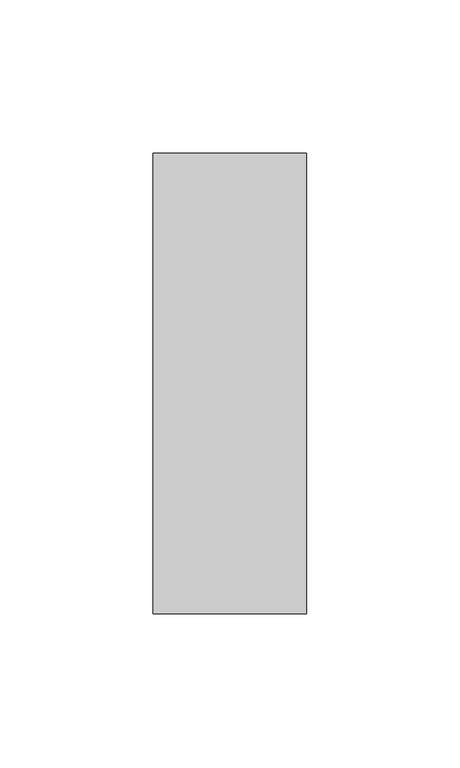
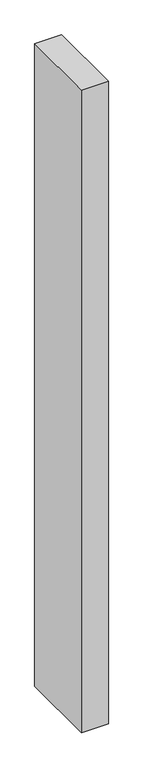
"""IFC4 building model written with IfcOpenShell, lengths in millimetres: member geometry, Прямоугольный импост : 50 x 150 мм."""

from ifc_helpers import new_model, si_unit, frame, origin, place, context, project, spatial, polyline, outline, extrude, source, transform, mapped, element, save


def member_a237035d(model_context):
    return source(origin(), model_context, "Body", "SweptSolid", [
        extrude(outline(polyline([(25.0, 75.0), (25.0, -75.0), (-25.0, -75.0), (-25.0, 75.0), (25.0, 75.0)])), frame((0.0, 0.0, -1260.538358), z_axis=(0.0, 0.0, 1.0), x_axis=(1.0, 0.0, 0.0)), (0.0, 0.0, 1.0), 1260.538358),
    ])


if __name__ == "__main__":
    model = new_model("IFC4")
    model_context = context("Model", 3, world=origin())
    ifc_project = project(units=[si_unit("LENGTHUNIT", "METRE", prefix="MILLI")], contexts=[model_context])
    site = spatial("IfcSite", under=ifc_project)
    building = spatial("IfcBuilding", under=site)
    placement = place(None, origin())
    member_shape = member_a237035d(model_context)
    element("IfcMember", 1, ObjectType="Прямоугольный импост : 50 x 150 мм", at=placement, inside=building, context=model_context, shape_type="MappedRepresentation", body=[
        mapped(member_shape, transform((0.0, 0.0, 0.0), x_axis=(1.0, 0.0, 0.0), y_axis=(0.0, 1.0, 0.0), z_axis=(0.0, 0.0, 1.0))),
    ])
    save(model, "model.ifc")
